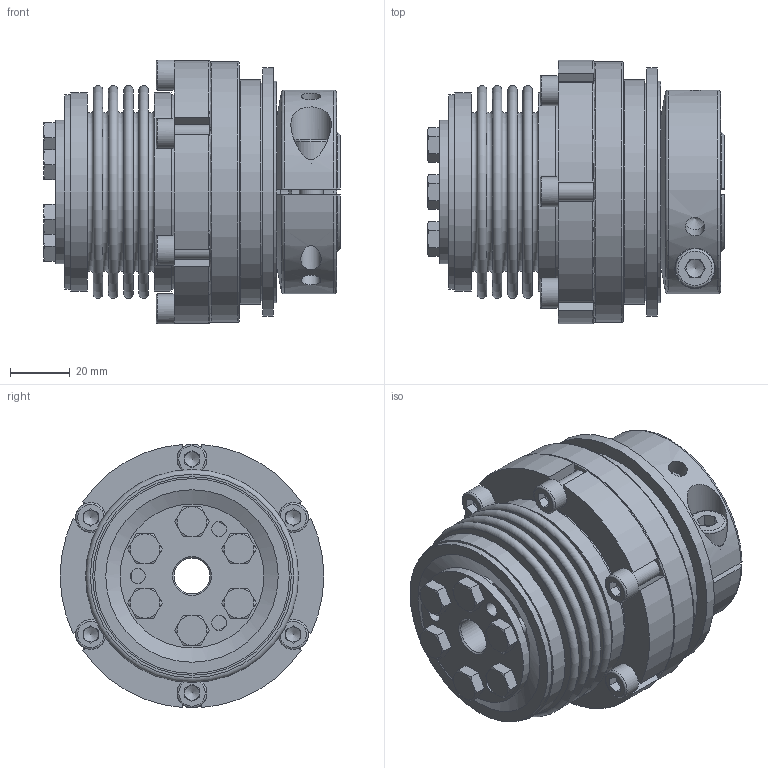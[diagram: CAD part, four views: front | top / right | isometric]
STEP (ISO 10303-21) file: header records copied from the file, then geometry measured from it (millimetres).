
FILE_DESCRIPTION( ( 'Unknown' ), '1' );
FILE_NAME( 'F:/JAKOB-STEP+IGES-Dateien/STEP-Dateien/SKB-KS/SKB-KS 60.stp', 'Unknown', ( 'Unknown' ), ( 'Unknown' ), 'PSStep 10.1', 'Unknown', ' ' );
FILE_SCHEMA( ( 'AUTOMOTIVE_DESIGN { 1 0 10303 214 1 1 1 1 }' ) );
Length unit declared in the file: millimetre
Products named in the file (1): kt101732-oa9
Bounding box: 99 x 88 x 88 mm (x, y, z)
Volume: 284277.7 mm3; surface area: 121970.7 mm2
Topology: 1 solids, 3 shells, 588 faces, 1582 edges, 1015 vertices
Faces by surface type: plane 295, cylinder 118, torus 88, cone 72, sphere 15
Full cylindrical faces by diameter (mm): 2 x2, 4.2 x1, 5 x16, 6 x12, 6.4 x6, 6.5 x3, 6.8 x1, 8 x1, 8.5 x1, 8.7 x6, 10 x6, 12 x1, 13 x1, 13.5 x1, 18 x1, 28.5 x1, 31 x1, 42.5 x1, 44 x1, 44.8 x1, 45 x2, 46 x1, 46.1 x1, 48 x1, 49 x1, 50 x1, 52.3 x2, 56 x1, 60.8 x2, 65 x2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
Entity records: 23472 total; most frequent: CARTESIAN_POINT 5402, DIRECTION 2772, ORIENTED_EDGE 2568, EDGE_CURVE 1284, AXIS2_PLACEMENT_3D 1155, VERTEX_POINT 899, EDGE_LOOP 860, FACE_OUTER_BOUND 708
